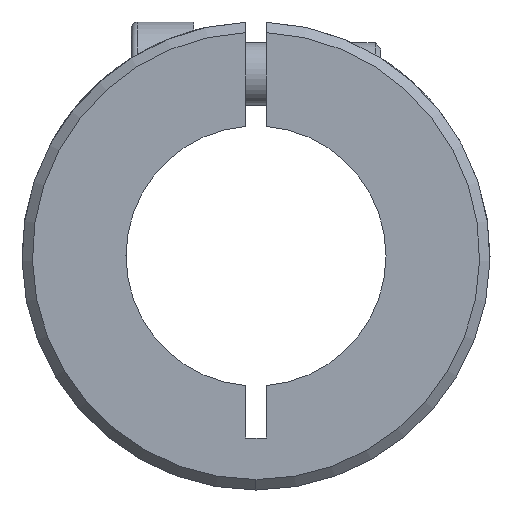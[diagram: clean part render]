
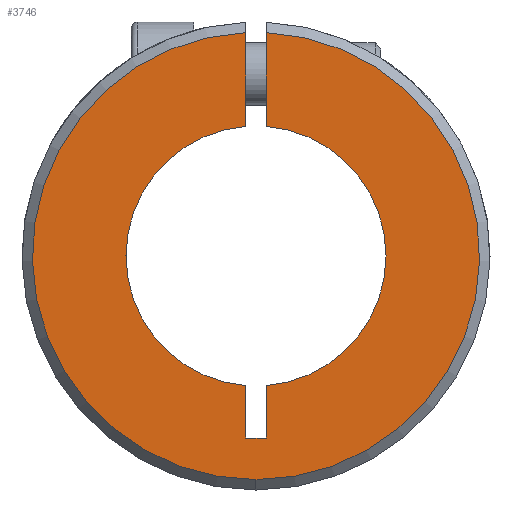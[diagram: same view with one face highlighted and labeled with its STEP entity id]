
A CAD part, left-side view. The second image highlights one B-rep face of the part: STEP entity #3746.
In plain terms, the highlighted planar face has unit normal (-1, 0, 0).
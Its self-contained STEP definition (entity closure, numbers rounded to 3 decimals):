
#148 = ORIENTED_EDGE ( 'NONE', *, *, #5122, .F. ) ;
#264 = ORIENTED_EDGE ( 'NONE', *, *, #4754, .T. ) ;
#355 = DIRECTION ( 'NONE',  ( 0., 0., 1. ) ) ;
#357 = CARTESIAN_POINT ( 'NONE',  ( -37.5, -1., -12.46 ) ) ;
#418 = CARTESIAN_POINT ( 'NONE',  ( -37.5, -1., -17.5 ) ) ;
#432 = EDGE_CURVE ( 'NONE', #3143, #2221, #5301, .T. ) ;
#438 = VERTEX_POINT ( 'NONE', #908 ) ;
#523 = EDGE_CURVE ( 'NONE', #1109, #4455, #999, .T. ) ;
#654 = CIRCLE ( 'NONE', #2656, 21.5 ) ;
#668 = CARTESIAN_POINT ( 'NONE',  ( -37.5, -1., -17.5 ) ) ;
#688 = ORIENTED_EDGE ( 'NONE', *, *, #3035, .T. ) ;
#706 = FACE_OUTER_BOUND ( 'NONE', #1635, .T. ) ;
#829 = CARTESIAN_POINT ( 'NONE',  ( -37.5, 1., -17.5 ) ) ;
#908 = CARTESIAN_POINT ( 'NONE',  ( -37.5, 1., 12.46 ) ) ;
#937 = DIRECTION ( 'NONE',  ( 0., 0., -1. ) ) ;
#986 = DIRECTION ( 'NONE',  ( 0., 0., -1. ) ) ;
#999 = CIRCLE ( 'NONE', #1719, 12.5 ) ;
#1019 = AXIS2_PLACEMENT_3D ( 'NONE', #2687, #3977, #4400 ) ;
#1109 = VERTEX_POINT ( 'NONE', #357 ) ;
#1183 = EDGE_CURVE ( 'NONE', #438, #3022, #3795, .T. ) ;
#1382 = ORIENTED_EDGE ( 'NONE', *, *, #5545, .F. ) ;
#1453 = ORIENTED_EDGE ( 'NONE', *, *, #432, .T. ) ;
#1575 = DIRECTION ( 'NONE',  ( 0., 0., 1. ) ) ;
#1585 = VECTOR ( 'NONE', #5088, 1000. ) ;
#1635 = EDGE_LOOP ( 'NONE', ( #688, #1453, #4403, #148, #2884, #1382, #2362, #264, #3314 ) ) ;
#1712 = EDGE_CURVE ( 'NONE', #2029, #2077, #2719, .T. ) ;
#1719 = AXIS2_PLACEMENT_3D ( 'NONE', #1947, #4546, #2772 ) ;
#1726 = CARTESIAN_POINT ( 'NONE',  ( -37.5, -1., 12.46 ) ) ;
#1817 = CARTESIAN_POINT ( 'NONE',  ( -37.5, -1., 21.477 ) ) ;
#1842 = LINE ( 'NONE', #4273, #3752 ) ;
#1871 = CARTESIAN_POINT ( 'NONE',  ( -37.5, -1., -17.5 ) ) ;
#1947 = CARTESIAN_POINT ( 'NONE',  ( -37.5, 0., 0. ) ) ;
#2029 = VERTEX_POINT ( 'NONE', #668 ) ;
#2077 = VERTEX_POINT ( 'NONE', #4172 ) ;
#2221 = VERTEX_POINT ( 'NONE', #4224 ) ;
#2362 = ORIENTED_EDGE ( 'NONE', *, *, #1712, .T. ) ;
#2372 = VECTOR ( 'NONE', #1575, 1000. ) ;
#2408 = EDGE_CURVE ( 'NONE', #2221, #5282, #654, .T. ) ;
#2563 = VECTOR ( 'NONE', #3575, 1000. ) ;
#2656 = AXIS2_PLACEMENT_3D ( 'NONE', #3925, #5207, #986 ) ;
#2687 = CARTESIAN_POINT ( 'NONE',  ( -37.5, 0., 0. ) ) ;
#2719 = LINE ( 'NONE', #1871, #2563 ) ;
#2772 = DIRECTION ( 'NONE',  ( 0., 0., 1. ) ) ;
#2795 = AXIS2_PLACEMENT_3D ( 'NONE', #3564, #4156, #3141 ) ;
#2884 = ORIENTED_EDGE ( 'NONE', *, *, #523, .F. ) ;
#2996 = LINE ( 'NONE', #418, #3686 ) ;
#3022 = VERTEX_POINT ( 'NONE', #4274 ) ;
#3035 = EDGE_CURVE ( 'NONE', #438, #3143, #3390, .T. ) ;
#3061 = AXIS2_PLACEMENT_3D ( 'NONE', #4715, #3546, #937 ) ;
#3141 = DIRECTION ( 'NONE',  ( 0., 1., 0. ) ) ;
#3143 = VERTEX_POINT ( 'NONE', #3643 ) ;
#3314 = ORIENTED_EDGE ( 'NONE', *, *, #1183, .F. ) ;
#3390 = LINE ( 'NONE', #4583, #1585 ) ;
#3546 = DIRECTION ( 'NONE',  ( -1., 0., 0. ) ) ;
#3549 = DIRECTION ( 'NONE',  ( 0., 0., 1. ) ) ;
#3564 = CARTESIAN_POINT ( 'NONE',  ( -37.5, 12.5, 0. ) ) ;
#3575 = DIRECTION ( 'NONE',  ( 0., 1., 0. ) ) ;
#3643 = CARTESIAN_POINT ( 'NONE',  ( -37.5, 1., 21.477 ) ) ;
#3686 = VECTOR ( 'NONE', #355, 1000. ) ;
#3701 = PLANE ( 'NONE',  #2795 ) ;
#3746 = ADVANCED_FACE ( 'NONE', ( #706 ), #3701, .F. ) ;
#3752 = VECTOR ( 'NONE', #3549, 1000. ) ;
#3795 = CIRCLE ( 'NONE', #1019, 12.5 ) ;
#3925 = CARTESIAN_POINT ( 'NONE',  ( -37.5, 0., 0. ) ) ;
#3977 = DIRECTION ( 'NONE',  ( -1., 0., 0. ) ) ;
#4156 = DIRECTION ( 'NONE',  ( 1., 0., 0. ) ) ;
#4172 = CARTESIAN_POINT ( 'NONE',  ( -37.5, 1., -17.5 ) ) ;
#4224 = CARTESIAN_POINT ( 'NONE',  ( -37.5, 0., -21.5 ) ) ;
#4273 = CARTESIAN_POINT ( 'NONE',  ( -37.5, -1., -17.5 ) ) ;
#4274 = CARTESIAN_POINT ( 'NONE',  ( -37.5, 1., -12.46 ) ) ;
#4400 = DIRECTION ( 'NONE',  ( 0., 0., 1. ) ) ;
#4403 = ORIENTED_EDGE ( 'NONE', *, *, #2408, .T. ) ;
#4455 = VERTEX_POINT ( 'NONE', #1726 ) ;
#4546 = DIRECTION ( 'NONE',  ( -1., 0., 0. ) ) ;
#4583 = CARTESIAN_POINT ( 'NONE',  ( -37.5, 1., -17.5 ) ) ;
#4700 = LINE ( 'NONE', #829, #2372 ) ;
#4715 = CARTESIAN_POINT ( 'NONE',  ( -37.5, 0., 0. ) ) ;
#4754 = EDGE_CURVE ( 'NONE', #2077, #3022, #4700, .T. ) ;
#5088 = DIRECTION ( 'NONE',  ( 0., 0., 1. ) ) ;
#5122 = EDGE_CURVE ( 'NONE', #4455, #5282, #1842, .T. ) ;
#5207 = DIRECTION ( 'NONE',  ( -1., 0., 0. ) ) ;
#5282 = VERTEX_POINT ( 'NONE', #1817 ) ;
#5301 = CIRCLE ( 'NONE', #3061, 21.5 ) ;
#5545 = EDGE_CURVE ( 'NONE', #2029, #1109, #2996, .T. ) ;
